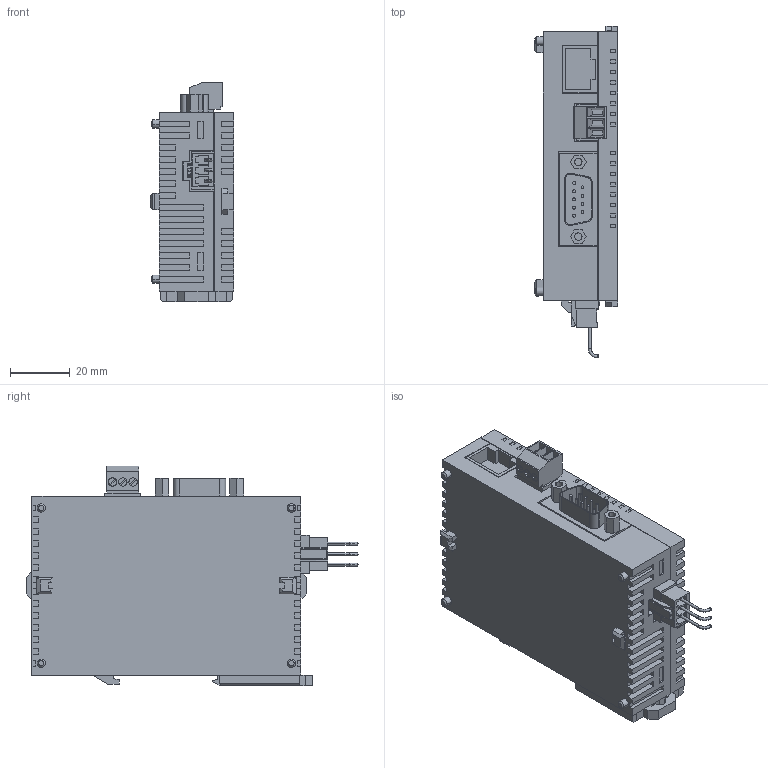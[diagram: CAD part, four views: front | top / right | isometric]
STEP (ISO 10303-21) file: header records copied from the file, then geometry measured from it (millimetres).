
FILE_DESCRIPTION (( 'STEP AP203' ), '1' );
FILE_NAME ('afp0611.STEP', '2013-06-28T04:54:00', ( 'sunx' ), ( 'sunx' ), 'SwSTEP 2.0', 'SolidWorks 2010', '' );
FILE_SCHEMA (( 'CONFIG_CONTROL_DESIGN' ));
Length unit declared in the file: millimetre
Products named in the file (1): afp0611
Bounding box: 28 x 111.2 x 73.45 mm (x, y, z)
Volume: 135873.6 mm3; surface area: 25877.7 mm2
Topology: 1 solids, 1 shells, 782 faces, 2094 edges, 1376 vertices
Faces by surface type: plane 685, cylinder 83, cone 8, torus 6
Entity records: 24083 total; most frequent: CARTESIAN_POINT 4253, ORIENTED_EDGE 4188, DIRECTION 3860, EDGE_CURVE 2094, LINE 1894, VECTOR 1894, VERTEX_POINT 1376, AXIS2_PLACEMENT_3D 983
